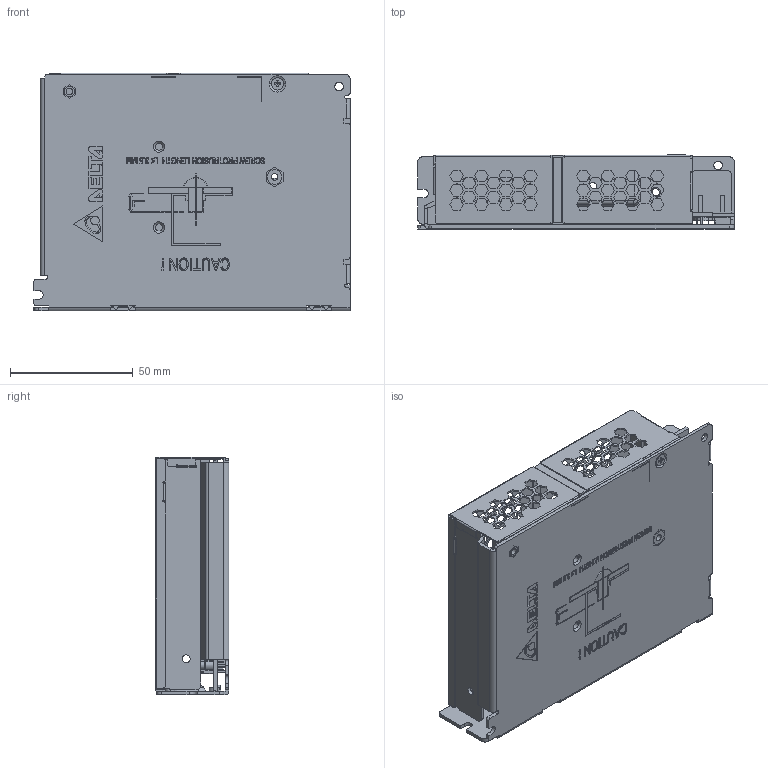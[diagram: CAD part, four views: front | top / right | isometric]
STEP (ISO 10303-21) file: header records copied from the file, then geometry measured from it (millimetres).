
FILE_DESCRIPTION((''),'2;1');
FILE_NAME('PMH-24V100WCLU_ASM','2018-04-10T',('warud'),(''),'PRO/ENGINEER BY PARAMETRIC TECHNOLOGY CORPORATION, 2010180','PRO/ENGINEER BY PARAMETRIC TECHNOLOGY CORPORATION, 2010180','');
FILE_SCHEMA(('CONFIG_CONTROL_DESIGN','SHAPE_APPEARANCE_LAYERS_GROUPS'));
Products named in the file (15): 330336890001_A_BODY_1; 330336890001_A_STUD6-32_1; 330336890001_A_STUDM3_1; 330336890001_ASM_1_ASM_ASM; 330336860000_1; PWB_MAINBOARD_1; 307049867W_1; EE_VR131_1; EE_LED370_1; 312330170000_LED-HOLDER_1; ASSY_PWB-MAINBOARD_ASM_2_ASM_ASM; 3105469000_1; 3263670900_1; PMH-24V100WCMU_ASM_ASM; PMH-24V100WCLU_ASM
Assembly tree (14 placements, depth 4):
  PMH-24V100WCLU_ASM
    PMH-24V100WCMU_ASM_ASM
      330336890001_ASM_1_ASM_ASM
        330336890001_A_BODY_1
        330336890001_A_STUD6-32_1
        330336890001_A_STUDM3_1
      330336860000_1
      ASSY_PWB-MAINBOARD_ASM_2_ASM_ASM
        PWB_MAINBOARD_1
        307049867W_1
        EE_VR131_1
        EE_LED370_1
        312330170000_LED-HOLDER_1
      3105469000_1
      3263670900_1
Bounding box: 129 x 30.1 x 97 mm (x, y, z)
Volume: 64338.1 mm3; surface area: 95600.3 mm2
Topology: 11 solids, 11 shells, 4636 faces, 13064 edges, 8293 vertices
Faces by surface type: plane 3605, cylinder 451, extrusion 321, bspline 208, cone 35, torus 16
Entity records: 188064 total; most frequent: CARTESIAN_POINT 33349, ORIENTED_EDGE 26120, DIRECTION 21995, EDGE_CURVE 13060, PRESENTATION_STYLE_ASSIGNMENT 11428, VECTOR 11397, STYLED_ITEM 11363, CURVE_STYLE 11225
